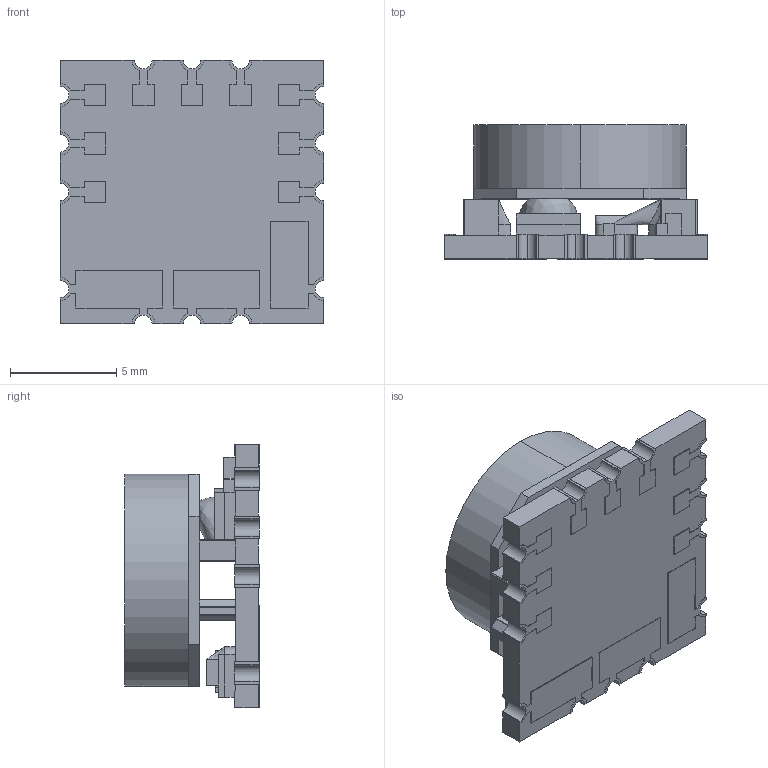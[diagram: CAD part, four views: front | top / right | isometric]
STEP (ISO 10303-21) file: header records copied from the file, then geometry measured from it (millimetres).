
FILE_DESCRIPTION (( 'STEP AP214' ), '1' );
FILE_NAME ('mps_dcdc_okl_t3_a.step', '2024-03-12T17:45:40', ( '' ), ( '' ), 'SwSTEP 2.0', 'SolidWorks 2021', '' );
FILE_SCHEMA (( 'AUTOMOTIVE_DESIGN' ));
Length unit declared in the file: millimetre
Products named in the file (1): mps_dcdc_okl_t3_a
Bounding box: 12.4 x 6.33 x 12.4 mm (x, y, z)
Volume: 477 mm3; surface area: 966.8 mm2
Topology: 24 solids, 24 shells, 465 faces, 1233 edges, 817 vertices
Faces by surface type: plane 379, cylinder 70, bspline 16
Entity records: 30275 total; most frequent: CARTESIAN_POINT 18412, ORIENTED_EDGE 2466, DIRECTION 2280, EDGE_CURVE 1233, VECTOR 990, LINE 990, VERTEX_POINT 817, AXIS2_PLACEMENT_3D 645
